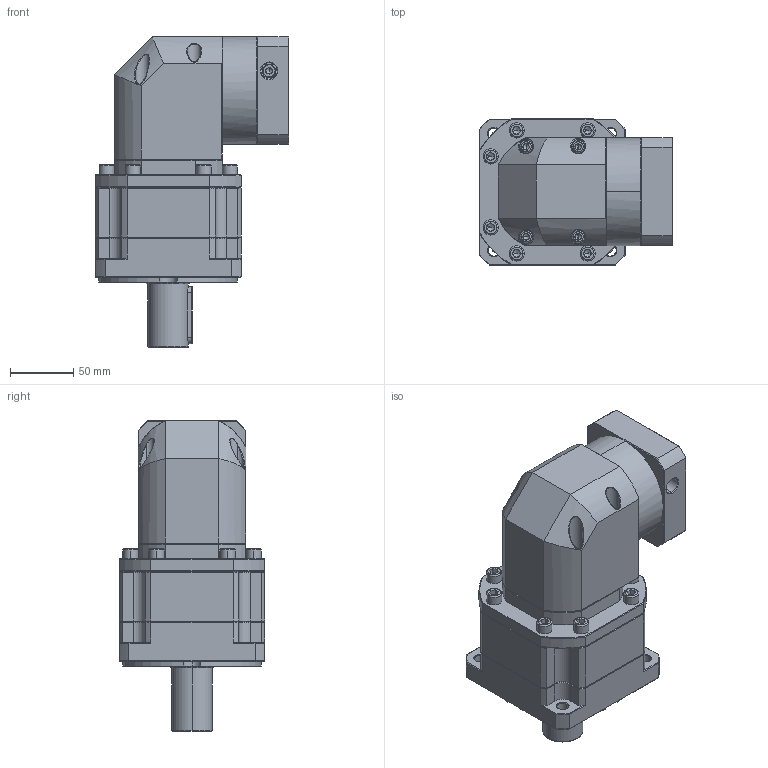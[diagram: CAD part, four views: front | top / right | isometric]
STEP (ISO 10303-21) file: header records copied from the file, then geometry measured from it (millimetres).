
FILE_DESCRIPTION (( 'STEP AP214' ), '1' );
FILE_NAME ('ZB115A-D32-L2-P2-14-50-70-M4.step', '2023-08-26T13:30:51', ( '' ), ( '' ), 'SwSTEP 2.0', 'SolidWorks 2016', '' );
FILE_SCHEMA (( 'AUTOMOTIVE_DESIGN' ));
Length unit declared in the file: millimetre
Products named in the file (1): ZB115A-D32-L2-P2-14-50-70-M4
Bounding box: 152.6 x 115 x 245 mm (x, y, z)
Volume: 1980112.1 mm3; surface area: 176557.5 mm2
Topology: 6 solids, 6 shells, 2444 faces, 6266 edges, 3935 vertices
Faces by surface type: plane 1273, bspline 439, cone 365, cylinder 353, torus 14
Entity records: 121841 total; most frequent: CARTESIAN_POINT 38752, ORIENTED_EDGE 12424, DIRECTION 10202, EDGE_CURVE 6212, VECTOR 4126, LINE 4126, VERTEX_POINT 3935, AXIS2_PLACEMENT_3D 3038
